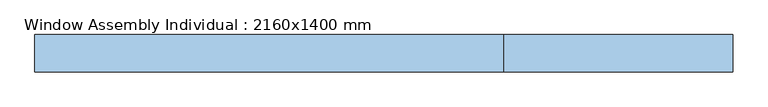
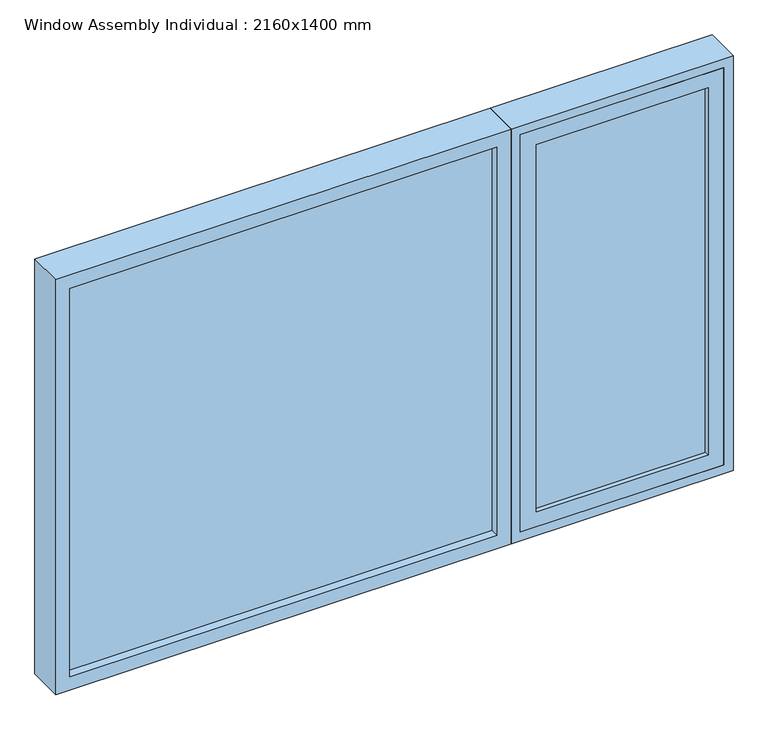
"""IFC4 building model written with IfcOpenShell, lengths in millimetres: window geometry, Window Assembly Individual : 2160x1400 mm."""

import ifcopenshell
import ifcopenshell.guid

model = None  # the IFC model being written
_history = None  # IfcOwnerHistory: only IFC2X3 demands one
_inside = {}  # id of a spatial element -> (the spatial element, [elements in it])
_under = {}  # id of a project, library or spatial element -> (it, [spatial elements below it])
_declared = {}  # id of a project -> (the project, [libraries it declares])
_typed = {}  # id of a type object -> (the type object, [elements of that type])
_made_of = {}  # id of a material, layer set ... -> (it, [elements and type objects made of it])


def new_model(schema):
    """Start an empty IFC model of exactly this schema.

    Asked for "IFC4X3", IfcOpenShell would pick the latest addendum, in which some entities
    have other attributes; the version numbers below select the first issue.
    IFC2X3 requires an IfcOwnerHistory on every rooted entity: one is made here for all.
    """
    global model, _history
    if schema == "IFC4X3":
        model = ifcopenshell.file(schema_version=(4, 3, 0, 0))
    else:
        model = ifcopenshell.file(schema=schema)
    _inside.clear()
    _under.clear()
    _declared.clear()
    _typed.clear()
    _made_of.clear()
    _history = None
    if model.schema == "IFC2X3":
        org = make("IfcOrganization", Name="unknown")
        user = make(
            "IfcPersonAndOrganization",
            ThePerson=make("IfcPerson", FamilyName="unknown"),
            TheOrganization=org,
        )
        app = make(
            "IfcApplication",
            ApplicationDeveloper=org,
            Version="unknown",
            ApplicationFullName="unknown",
            ApplicationIdentifier="unknown",
        )
        _history = make(
            "IfcOwnerHistory",
            OwningUser=user,
            OwningApplication=app,
            ChangeAction="ADDED",
            CreationDate=0,
        )
    return model


def make(cls, **values):
    """One entity of the class cls with the attributes given. An attribute that is None is left unset."""
    return model.create_entity(
        cls, **{name: value for name, value in values.items() if value is not None}
    )


def rooted(cls, **values):
    """An entity with a GlobalId (a new one), such as an element, a storey or a relation."""
    return make(cls, GlobalId=ifcopenshell.guid.new(), OwnerHistory=_history, **values)


def si_unit(unit_type, name, prefix=None):
    """IfcSIUnit, for example si_unit("LENGTHUNIT", "METRE", prefix="MILLI")."""
    return make("IfcSIUnit", UnitType=unit_type, Prefix=prefix, Name=name)


def assignment(units):
    """IfcUnitAssignment: the units of a project."""
    return None if units is None else make("IfcUnitAssignment", Units=units)


def point(xyz):
    """IfcCartesianPoint."""
    return None if xyz is None else make("IfcCartesianPoint", Coordinates=xyz)


def direction(xyz):
    """IfcDirection."""
    return None if xyz is None else make("IfcDirection", DirectionRatios=xyz)


def frame(location, z_axis=None, x_axis=None):
    """IfcAxis2Placement3D, a coordinate frame: its origin and axes. An axis left out is left unset."""
    return make(
        "IfcAxis2Placement3D",
        Location=point(location),
        Axis=direction(z_axis),
        RefDirection=direction(x_axis),
    )


def origin():
    """The frame at (0, 0, 0) with its axes left unset."""
    return frame((0.0, 0.0, 0.0))


def place(relative_to, where):
    """IfcLocalPlacement: puts the frame where relative to a parent placement (None: the world)."""
    return make(
        "IfcLocalPlacement", PlacementRelTo=relative_to, RelativePlacement=where
    )


def context(
    kind, dimensions, precision=None, world=None, true_north=None, identifier=None
):
    """IfcGeometricRepresentationContext, for example the 3D "Model" context."""
    return make(
        "IfcGeometricRepresentationContext",
        ContextIdentifier=identifier,
        ContextType=kind,
        CoordinateSpaceDimension=dimensions,
        Precision=precision,
        WorldCoordinateSystem=world,
        TrueNorth=true_north,
    )


def project(units=None, contexts=None):
    """IfcProject with its units and contexts."""
    return rooted(
        "IfcProject",
        Name="project",
        RepresentationContexts=contexts,
        UnitsInContext=assignment(units),
    )


def spatial(cls, under=None, at=None, **own):
    """A site, building, storey or space (cls), placed at a placement, below another one or the project."""
    s = rooted(cls, ObjectPlacement=at, **own)
    if under is not None:
        _under.setdefault(under.id(), (under, []))[1].append(s)
    return s


def polyline(points):
    """IfcPolyline through the points."""
    return make("IfcPolyline", Points=[point(p) for p in points])


def outline(outer, holes=None, kind="AREA"):
    """IfcArbitraryClosedProfileDef: a profile drawn as a closed curve; with holes, ...WithVoids."""
    if holes is None:
        return make("IfcArbitraryClosedProfileDef", ProfileType=kind, OuterCurve=outer)
    return make(
        "IfcArbitraryProfileDefWithVoids",
        ProfileType=kind,
        OuterCurve=outer,
        InnerCurves=holes,
    )


def extrude(swept, where, along, depth):
    """IfcExtrudedAreaSolid: the profile swept, set in the frame where, extruded along a direction by depth."""
    return make(
        "IfcExtrudedAreaSolid",
        SweptArea=swept,
        Position=where,
        ExtrudedDirection=direction(along),
        Depth=depth,
    )


def faces_of(points, faces, orient=None, outer=None):
    """IfcFace entities. A face is a list of loops; a loop is a list of indices into points, from 0.

    orient and outer hold one flag for each loop. By default every Orientation is true, the
    first loop of a face is its IfcFaceOuterBound and the others are IfcFaceBound.
    """
    made = []
    for i, loops in enumerate(faces):
        bounds = []
        for j, loop in enumerate(loops):
            is_outer = j == 0 if outer is None else outer[i][j]
            bounds.append(
                make(
                    "IfcFaceOuterBound" if is_outer else "IfcFaceBound",
                    Bound=make("IfcPolyLoop", Polygon=[points[k] for k in loop]),
                    Orientation=True if orient is None else orient[i][j],
                )
            )
        made.append(make("IfcFace", Bounds=bounds))
    return made


def faceted_brep(points, faces, orient=None, outer=None, voids=None):
    """IfcFacetedBrep: a solid bounded by flat faces; with voids (closed shells), ...WithVoids."""
    shared = [point(p) for p in points]
    hull = make("IfcClosedShell", CfsFaces=faces_of(shared, faces, orient, outer))
    if voids is None:
        return make("IfcFacetedBrep", Outer=hull)
    return make(
        "IfcFacetedBrepWithVoids",
        Outer=hull,
        Voids=[
            make(cls, CfsFaces=faces_of(shared, fs, o, b)) for cls, fs, o, b in voids
        ],
    )


def shape(context_of_items, identifier, shape_type, items):
    """IfcShapeRepresentation: the items that make up one representation, for example the "Body"."""
    return make(
        "IfcShapeRepresentation",
        ContextOfItems=context_of_items,
        RepresentationIdentifier=identifier,
        RepresentationType=shape_type,
        Items=items,
    )


def source(mapping_origin, context_of_items, identifier, shape_type, items):
    """IfcRepresentationMap: a shape defined once, which mapped items show again and again."""
    return make(
        "IfcRepresentationMap",
        MappingOrigin=mapping_origin,
        MappedRepresentation=shape(context_of_items, identifier, shape_type, items),
    )


def transform(
    local_origin,
    x_axis=None,
    y_axis=None,
    z_axis=None,
    scale=None,
    scale2=None,
    scale3=None,
    uniform=True,
):
    """IfcCartesianTransformationOperator3D, or its non-uniform kind. x_axis, y_axis, z_axis: its Axis1, 2, 3."""
    if uniform:
        return make(
            "IfcCartesianTransformationOperator3D",
            Axis1=direction(x_axis),
            Axis2=direction(y_axis),
            LocalOrigin=point(local_origin),
            Scale=scale,
            Axis3=direction(z_axis),
        )
    return make(
        "IfcCartesianTransformationOperator3DnonUniform",
        Axis1=direction(x_axis),
        Axis2=direction(y_axis),
        LocalOrigin=point(local_origin),
        Scale=scale,
        Axis3=direction(z_axis),
        Scale2=scale2,
        Scale3=scale3,
    )


def mapped(mapping_source, mapping_target):
    """IfcMappedItem: shows the shape of a source again, moved by a transform."""
    return make(
        "IfcMappedItem", MappingSource=mapping_source, MappingTarget=mapping_target
    )


def made_of(thing, what):
    """Note that an element or type object is made of a material, layer set ...; save() writes the relation."""
    if what is not None:
        _made_of.setdefault(what.id(), (what, []))[1].append(thing)
    return thing


def element(
    cls,
    number,
    at=None,
    inside=None,
    cuts=None,
    type_object=None,
    material=None,
    context=None,
    identifier="Body",
    shape_type=None,
    held_by="IfcProductDefinitionShape",
    body=None,
    shapes=None,
    **own,
):
    """One element of the class cls, such as IfcWall. Its Tag is "e" and its number.

    at: its placement. inside: the storey or other place that contains it. cuts: it is an
    opening in that element (IfcRelVoidsElement). A single representation is given by context,
    identifier, shape_type and body (its items); several are given by shapes. held_by: the class
    of the entity that holds the representations. save() writes the other relations.
    """
    e = rooted(cls, Tag="e%d" % number, ObjectPlacement=at, **own)
    if body is not None:
        shapes = [shape(context, identifier, shape_type, body)]
    if shapes is not None:
        e.Representation = make(held_by, Representations=shapes)
    if inside is not None:
        _inside.setdefault(inside.id(), (inside, []))[1].append(e)
    if cuts is not None:
        rooted(
            "IfcRelVoidsElement", RelatingBuildingElement=cuts, RelatedOpeningElement=e
        )
    if type_object is not None:
        _typed.setdefault(type_object.id(), (type_object, []))[1].append(e)
    return made_of(e, material)


def aggregate(whole, parts):
    """IfcRelAggregates: a whole, such as a stair, and the parts it consists of."""
    return rooted("IfcRelAggregates", RelatingObject=whole, RelatedObjects=parts)


def save(model, path):
    """Write the relations noted so far, then the file.

    IfcRelAggregates (storeys below a building ...), IfcRelContainedInSpatialStructure (elements
    in a storey), IfcRelDefinesByType, IfcRelAssociatesMaterial and IfcRelDeclares: one each for
    every whole, place, type object, material and project.
    """
    for whole, parts in _under.values():
        aggregate(whole, parts)
    for where, things in _inside.values():
        rooted(
            "IfcRelContainedInSpatialStructure",
            RelatedElements=things,
            RelatingStructure=where,
        )
    for kind, things in _typed.values():
        rooted("IfcRelDefinesByType", RelatedObjects=things, RelatingType=kind)
    for what, things in _made_of.values():
        rooted("IfcRelAssociatesMaterial", RelatedObjects=things, RelatingMaterial=what)
    for by, libraries in _declared.values():
        rooted("IfcRelDeclares", RelatingContext=by, RelatedDefinitions=libraries)
    model.write(path)


def window_assembly_individual_2160x1400_mm_e8ab2868(model_context):
    return source(origin(), model_context, "Body", "SolidModel", [
        extrude(outline(polyline([(2170.0, 402.0), (830.0, 402.0), (830.0, 1050.0), (2170.0, 1050.0), (2170.0, 402.0)]), holes=[polyline([(880.0, 452.0), (2120.0, 452.0), (2120.0, 1000.0), (880.0, 1000.0), (880.0, 452.0)])]), frame((0.0, -190.0, 0.0), z_axis=(0.0, 1.0, 0.0), x_axis=(0.0, 0.0, 1.0)), (0.0, 0.0, 1.0), 50.0),
        extrude(outline(polyline([(1000.0, -155.0), (1000.0, -175.0), (452.0, -175.0), (452.0, -155.0), (1000.0, -155.0)])), frame((0.0, 0.0, 880.0), z_axis=(0.0, 0.0, 1.0), x_axis=(1.0, 0.0, 0.0)), (0.0, 0.0, 1.0), 1240.0),
        faceted_brep([(1035.0, -75.0, 2155.0), (1035.0, -75.0, 845.0), (1035.0, -140.0, 845.0), (1035.0, -140.0, 2155.0), (1050.0, -140.0, 830.0), (1050.0, -140.0, 2170.0), (402.0, -140.0, 2170.0), (402.0, -140.0, 830.0), (417.0, -140.0, 845.0), (417.0, -140.0, 2155.0), (417.0, -75.0, 845.0), (1080.0, -75.0, 2200.0), (1080.0, -75.0, 800.0), (372.0, -75.0, 800.0), (372.0, -75.0, 2200.0), (417.0, -75.0, 2155.0), (1080.0, -190.0, 2200.0), (1080.0, -190.0, 800.0), (372.0, -190.0, 800.0), (372.0, -190.0, 2200.0), (1050.0, -190.0, 2170.0), (1050.0, -190.0, 830.0), (402.0, -190.0, 830.0), (402.0, -190.0, 2170.0)], [[[0, 1, 2, 3]], [[4, 5, 6, 7], [3, 2, 8, 9]], [[1, 10, 8, 2]], [[11, 12, 13, 14], [1, 0, 15, 10]], [[16, 17, 12, 11]], [[17, 18, 13, 12]], [[17, 16, 19, 18], [20, 21, 22, 23]], [[10, 15, 9, 8]], [[18, 19, 14, 13]], [[7, 6, 23, 22]], [[4, 7, 22, 21]], [[5, 4, 21, 20]], [[15, 0, 3, 9]], [[19, 16, 11, 14]], [[6, 5, 20, 23]]]),
        extrude(outline(polyline([(327.0, -140.0), (327.0, -162.0), (-1035.0, -162.0), (-1035.0, -140.0), (327.0, -140.0)])), frame((0.0, 0.0, 845.0), z_axis=(0.0, 0.0, 1.0), x_axis=(1.0, 0.0, 0.0)), (0.0, 0.0, 1.0), 1310.0),
        extrude(outline(polyline([(800.0, 372.0), (2200.0, 372.0), (2200.0, -1080.0), (800.0, -1080.0), (800.0, 372.0)]), holes=[polyline([(2155.0, 327.0), (845.0, 327.0), (845.0, -1035.0), (2155.0, -1035.0), (2155.0, 327.0)])]), frame((0.0, -190.0, 0.0), z_axis=(0.0, 1.0, 0.0), x_axis=(0.0, 0.0, 1.0)), (0.0, 0.0, 1.0), 115.0),
    ])


if __name__ == "__main__":
    model = new_model("IFC4")
    model_context = context("Model", 3, world=origin())
    ifc_project = project(units=[si_unit("LENGTHUNIT", "METRE", prefix="MILLI")], contexts=[model_context])
    site = spatial("IfcSite", under=ifc_project)
    building = spatial("IfcBuilding", under=site)
    placement = place(None, origin())
    window_assembly_individual_2160x1400_mm_shape = window_assembly_individual_2160x1400_mm_e8ab2868(model_context)
    element("IfcWindow", 1, ObjectType="Window Assembly Individual : 2160x1400 mm", at=placement, inside=building, context=model_context, shape_type="MappedRepresentation", body=[
        mapped(window_assembly_individual_2160x1400_mm_shape, transform((0.0, 0.0, 0.0), x_axis=(1.0, 0.0, 0.0), y_axis=(0.0, 1.0, 0.0), z_axis=(0.0, 0.0, 1.0))),
    ])
    save(model, "model.ifc")
